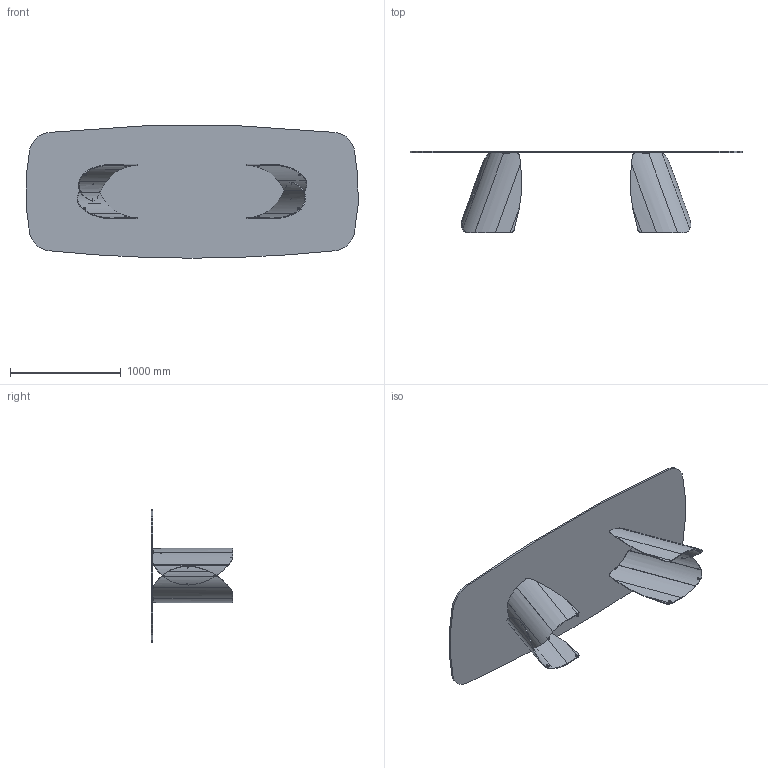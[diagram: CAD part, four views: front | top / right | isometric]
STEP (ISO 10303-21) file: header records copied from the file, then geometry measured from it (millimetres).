
FILE_DESCRIPTION (( 'STEP AP203' ), '1' );
FILE_NAME ('PA44G_Perla 300x120_Glass Shaped.STEP', '2024-07-31T12:43:25', ( '' ), ( '' ), 'SwSTEP 2.0', 'SolidWorks 2022', '' );
FILE_SCHEMA (( 'CONFIG_CONTROL_DESIGN' ));
Length unit declared in the file: millimetre
Products named in the file (9): profilo U 9x7 bombato_L = 60mm; PA44G_Perla 300x120_Glass Shaped; PER000000_01-00-PERLA LAMIERA ESTERNA; PIEDINO D.15 x H.8_filetto M6x11; PER000000_03-00-PERLA BUSSOLA PER PIEDE; PER000000-00-PERLA BASE GREZZA; COLLO BASE PERLA PER000000 CON FERRAMENTA; C4XCRXX-00-Piani Sagomati in Cristallo_3000 x 1200; PER000000_02-00-PERLA LAMIERA INTERNA
Assembly tree (16 placements, depth 4):
  PA44G_Perla 300x120_Glass Shaped
    COLLO BASE PERLA PER000000 CON FERRAMENTA  x2
      PER000000-00-PERLA BASE GREZZA
        PER000000_01-00-PERLA LAMIERA ESTERNA
        PER000000_02-00-PERLA LAMIERA INTERNA
        PER000000_03-00-PERLA BUSSOLA PER PIEDE  x4
      PIEDINO D.15 x H.8_filetto M6x11
      profilo U 9x7 bombato_L = 60mm
    C4XCRXX-00-Piani Sagomati in Cristallo_3000 x 1200
Bounding box: 2991.72 x 736.5 x 1192.61 mm (x, y, z)
Volume: 60326039.6 mm3; surface area: 10225892.7 mm2
Topology: 33 solids, 33 shells, 477 faces, 1057 edges, 646 vertices
Faces by surface type: cylinder 165, bspline 130, plane 102, cone 48, torus 32
Entity records: 12289 total; most frequent: CARTESIAN_POINT 8177, ORIENTED_EDGE 708, DIRECTION 453, EDGE_CURVE 354, VERTEX_POINT 219, AXIS2_PLACEMENT_3D 173, EDGE_LOOP 161, B_SPLINE_CURVE_WITH_KNOTS 153
